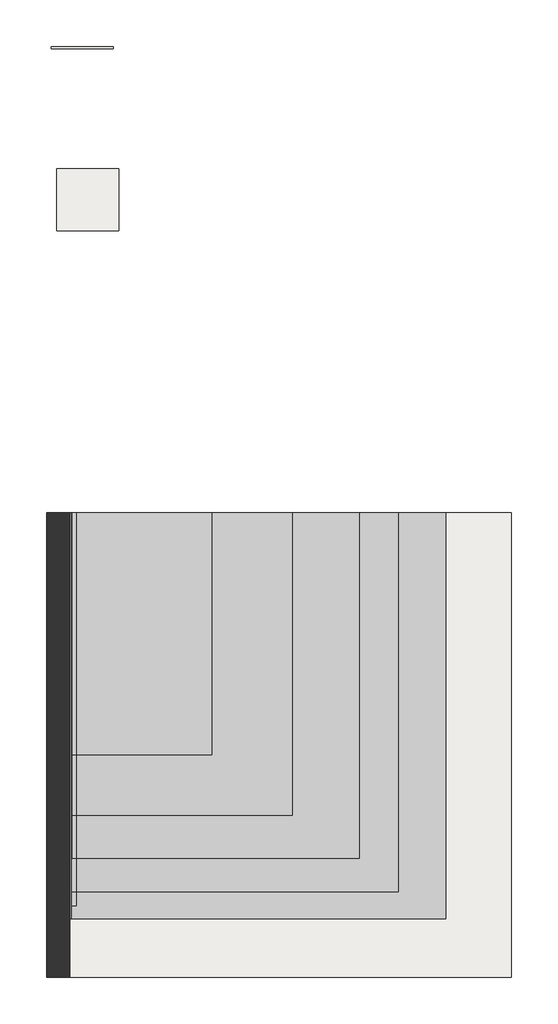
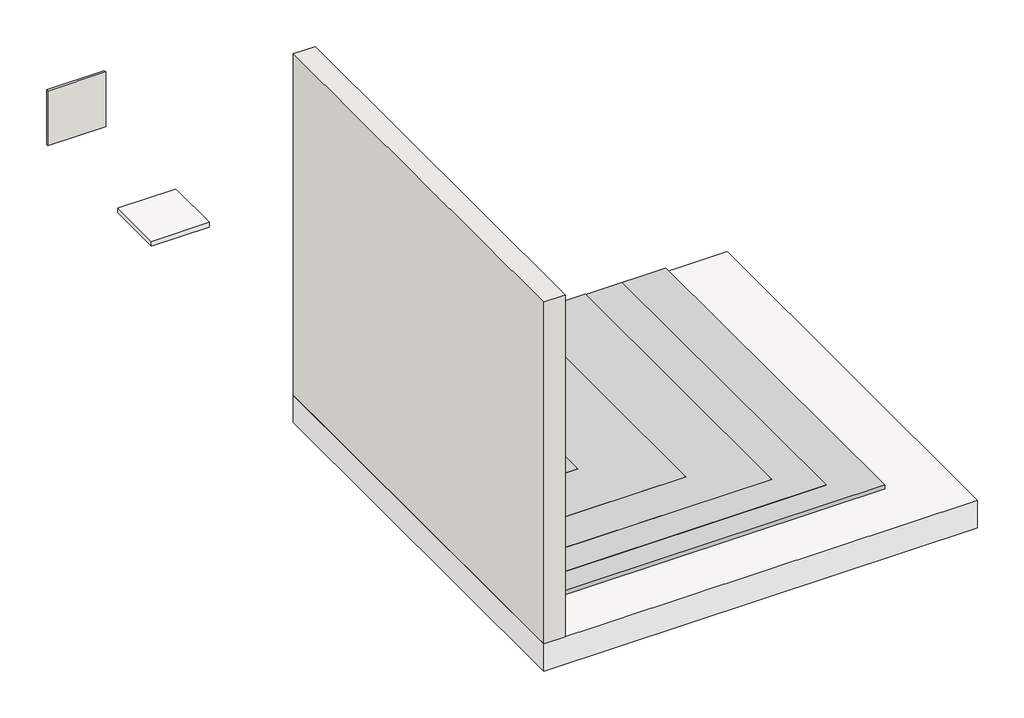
# One storey: 2 slabs, 2 walls, 1 proxy.
"""IFC4 building model written with IfcOpenShell, lengths in millimetres."""

from ifc_helpers import new_model, si_unit, frame, origin, place, context, project, spatial, polyline, outline, extrude, transform, mapped, element, save
from components import generic_models_bf98b7bc

model = new_model("IFC4")

# Units and contexts
model_context = context("Model", 3, world=origin())
ifc_project = project(units=[si_unit("LENGTHUNIT", "METRE", prefix="MILLI")], contexts=[model_context])

# Site, building, storey
site = spatial("IfcSite", under=ifc_project)
building = spatial("IfcBuilding", under=site)
storey = spatial("IfcBuildingStorey", under=building, Name="ARQ Térreo", Elevation=-2.523798)

# Proxy
placement = place(None, origin())
generic_models_shape = generic_models_bf98b7bc(model_context)
element("IfcBuildingElementProxy", 1, Name="IMPER:IMPER:433934 : IMPER:IMPER:433934", ObjectType="IMPER:IMPER:433934 : IMPER:IMPER:433934", at=placement, inside=storey, context=model_context, shape_type="MappedRepresentation", body=[
    mapped(generic_models_shape, transform((0.0, 0.0, 0.0), x_axis=(1.0, 0.0, 0.0), y_axis=(0.0, 1.0, 0.0), z_axis=(0.0, 0.0, 1.0))),
])

# Slabs
element("IfcSlab", 2, ObjectType="IMPH_VLK ruas", at=placement, inside=storey, context=model_context, shape_type="SweptSolid", body=[
    extrude(outline(polyline([(-435.4845759, 2365.3220439), (-35.4845759, 2365.3220439), (-35.4845759, 1965.3220439), (-435.4845759, 1965.3220439), (-435.4845759, 2365.3220439)])), frame((0.0, 0.0, -36.523798), z_axis=(0.0, 0.0, 1.0), x_axis=(1.0, 0.0, 0.0)), (0.0, 0.0, 1.0), 34.0),
])
element("IfcSlab", 3, ObjectType="Piso:LAJE CONCRETO", at=placement, inside=storey, context=model_context, shape_type="SweptSolid", body=[
    extrude(outline(polyline([(-501.9704105, 145.8700195), (2498.0295895, 145.8700195), (2498.0295895, -2854.1299805), (-501.9704105, -2854.1299805), (-501.9704105, 145.8700195)])), frame((0.0, 0.0, -202.523798), z_axis=(0.0, 0.0, 1.0), x_axis=(1.0, 0.0, 0.0)), (0.0, 0.0, 1.0), 200.0),
])

# Walls
element("IfcWall", 4, ObjectType="Parede básica:Parede Concreto", at=placement, inside=storey, context=model_context, shape_type="SweptSolid", body=[
    extrude(outline(polyline([(-501.9704105, -2854.1299805), (-501.9704105, 145.8700195), (-351.9704105, 145.8700195), (-351.9704105, -2854.1299805), (-501.9704105, -2854.1299805)])), frame((0.0, 0.0, -2.523798), z_axis=(0.0, 0.0, 1.0), x_axis=(1.0, 0.0, 0.0)), (0.0, 0.0, 1.0), 2500.0),
])
element("IfcWall", 5, ObjectType="IMPV_VLK ruas", at=placement, inside=storey, context=model_context, shape_type="SweptSolid", body=[
    extrude(outline(polyline([(-472.815513, 3154.9715871), (-72.815513, 3154.9715871), (-72.815513, 3140.9715871), (-472.815513, 3140.9715871), (-472.815513, 3154.9715871)])), frame((0.0, 0.0, -2.523798), z_axis=(0.0, 0.0, 1.0), x_axis=(1.0, 0.0, 0.0)), (0.0, 0.0, 1.0), 400.0),
])

save(model, "model.ifc")
